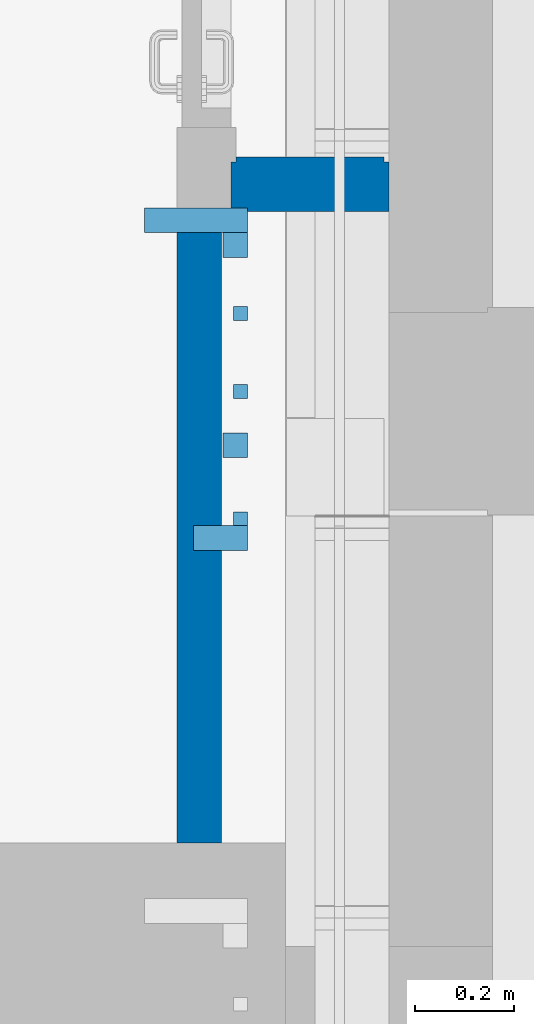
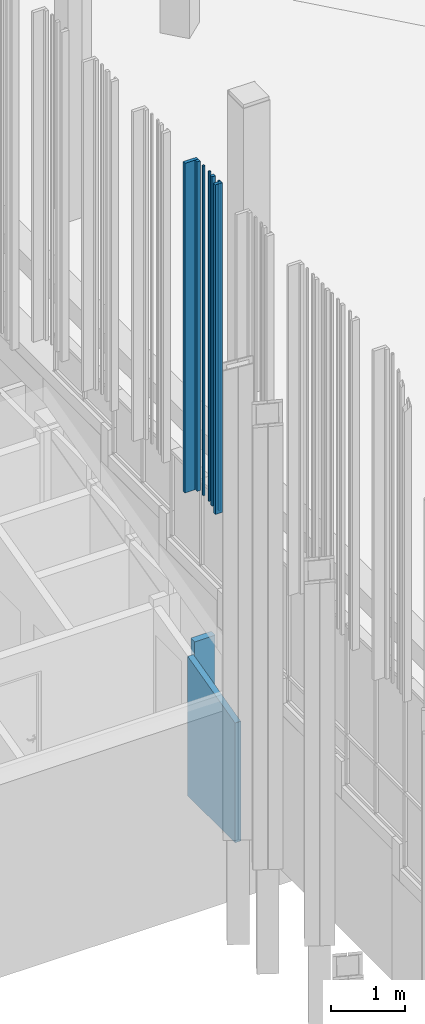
# One storey, part 118 of 390: 9 walls.
"""IFC2X3 building model written with IfcOpenShell, lengths in millimetres."""

from ifc_helpers import new_model, entity, si_unit, converted_unit, derived_unit, money_unit, direction, frame, origin_with_axes, place, context, subcontext, project, spatial, faceted_brep, material, material_list, type_object, element, save


model = new_model("IFC2X3")

# Units and contexts
model_context = context("Model", 3, precision=1e-05, world=origin_with_axes(), true_north=direction((0.0, 1.0)))
body_context = subcontext(model_context, "Body", "Model", "MODEL_VIEW")
ifc_project = project(units=[si_unit("LENGTHUNIT", "METRE", prefix="MILLI"), si_unit("AREAUNIT", "SQUARE_METRE"), si_unit("VOLUMEUNIT", "CUBIC_METRE"), converted_unit("PLANEANGLEUNIT", "DEGREE", entity("IfcPlaneAngleMeasure", 0.0174532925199), si_unit("PLANEANGLEUNIT", "RADIAN"), dimensions=[0, 0, 0, 0, 0, 0, 0]), si_unit("SOLIDANGLEUNIT", "STERADIAN"), money_unit("EUR"), converted_unit("TIMEUNIT", "Year", entity("IfcTimeMeasure", 31556926.0), si_unit("TIMEUNIT", "SECOND"), dimensions=[0, 0, 1, 0, 0, 0, 0]), si_unit("MASSUNIT", "GRAM", prefix="KILO"), si_unit("THERMODYNAMICTEMPERATUREUNIT", "DEGREE_CELSIUS"), si_unit("LUMINOUSINTENSITYUNIT", "LUMEN"), si_unit("ENERGYUNIT", "JOULE", prefix="MEGA"), derived_unit("THERMALCONDUCTANCEUNIT", [(si_unit("POWERUNIT", "WATT"), 1), (si_unit("LENGTHUNIT", "METRE"), -1), (si_unit("THERMODYNAMICTEMPERATUREUNIT", "KELVIN"), -1)]), derived_unit("SPECIFICHEATCAPACITYUNIT", [(si_unit("ENERGYUNIT", "JOULE"), 1), (si_unit("MASSUNIT", "GRAM", prefix="KILO"), -1), (si_unit("THERMODYNAMICTEMPERATUREUNIT", "KELVIN"), -1)]), derived_unit("MASSDENSITYUNIT", [(si_unit("MASSUNIT", "GRAM", prefix="KILO"), 1), (si_unit("VOLUMEUNIT", "CUBIC_METRE"), -1)])], contexts=[model_context])

# Site, building, storey
site_placement = place(None, origin_with_axes())
site = spatial("IfcSite", under=ifc_project, at=site_placement, Name="Site", CompositionType="ELEMENT")
building_placement = place(site_placement, origin_with_axes())
building = spatial("IfcBuilding", under=site, at=building_placement, Name="Building", CompositionType="ELEMENT")
storey_placement = place(building_placement, origin_with_axes())
storey = spatial("IfcBuildingStorey", under=building, at=storey_placement, Name="1 korrus", CompositionType="ELEMENT", Elevation=0.0)

# Walls
ifc_material_1 = material(Name="Site specified")
wall_type_1 = type_object("IfcWallType", Name="Puitfassaadi ribistik", PredefinedType="NOTDEFINED")
wall_1_placement = place(storey_placement, frame((122308.499996, 60061.9999924, 4424.99966101), z_axis=(0.0, 0.0, 1.0), x_axis=(0.0, 1.0, 0.0)))
element("IfcWall", 1, at=wall_1_placement, inside=storey, type_object=wall_type_1, material=ifc_material_1, Name="Site specified", context=body_context, shape_type="Brep", body=[
    faceted_brep([(25.0, 104.5, 5440.00033899), (25.0, 104.5, 0.0), (-25.0, 104.5, 0.0), (-25.0, 104.5, 5440.00033899), (25.0, -104.5, 5440.00033899), (25.0, -104.5, 0.0), (-25.0, -104.5, 0.0), (-25.0, -104.5, 5440.00033899)], [[[0, 1, 2, 3]], [[4, 5, 1, 0]], [[2, 1, 5, 6]], [[3, 2, 6, 7]], [[4, 0, 3, 7]], [[7, 6, 5, 4]]]),
])
wall_2_placement = place(storey_placement, frame((122358.499996, 59417.9999924, 4424.99966101), z_axis=(0.0, 0.0, 1.0), x_axis=(0.0, 1.0, 0.0)))
element("IfcWall", 2, at=wall_2_placement, inside=storey, type_object=wall_type_1, material=ifc_material_1, Name="Site specified", context=body_context, shape_type="Brep", body=[
    faceted_brep([(25.0, 54.5, 5440.00033899), (25.0, 54.5, 0.0), (-25.0, 54.5, 0.0), (-25.0, 54.5, 5440.00033899), (25.0, -54.5, 5440.00033899), (25.0, -54.5, 0.0), (-25.0, -54.5, 0.0), (-25.0, -54.5, 5440.00033899)], [[[0, 1, 2, 3]], [[4, 5, 1, 0]], [[2, 1, 5, 6]], [[3, 2, 6, 7]], [[4, 0, 3, 7]], [[7, 6, 5, 4]]]),
])
for number, where, z_axis, x_axis, name in (
    (3, (122398.999996, 59456.9999924, 4424.99966101), (0.0, 0.0, 1.0), (0.0, 1.0, 0.0), "Site specified"),
    (4, (122398.999996, 59714.9999924, 4424.99966101), (0.0, 0.0, 1.0), (0.0, 1.0, 0.0), "Site specified"),
):
    element("IfcWall", number, at=place(storey_placement, frame(where, z_axis=z_axis, x_axis=x_axis)), inside=storey, type_object=wall_type_1, material=ifc_material_1, Name=name, context=body_context, shape_type="Brep", body=[
        faceted_brep([(14.0, 14.0, 5440.00033899), (14.0, 14.0, 0.0), (-14.0, 14.0, 0.0), (-14.0, 14.0, 5440.00033899), (14.0, -14.0, 5440.00033899), (14.0, -14.0, 0.0), (-14.0, -14.0, 0.0), (-14.0, -14.0, 5440.00033899)], [[[0, 1, 2, 3]], [[4, 5, 1, 0]], [[2, 1, 5, 6]], [[3, 2, 6, 7]], [[4, 0, 3, 7]], [[7, 6, 5, 4]]]),
    ])
for number, where, z_axis, x_axis, name in (
    (5, (122387.999996, 60011.9999924, 4424.99966101), (0.0, 0.0, 1.0), (0.0, 1.0, 0.0), "Site specified"),
    (6, (122387.999996, 59605.9999924, 4424.99966101), (0.0, 0.0, 1.0), (0.0, 1.0, 0.0), "Site specified"),
):
    element("IfcWall", number, at=place(storey_placement, frame(where, z_axis=z_axis, x_axis=x_axis)), inside=storey, type_object=wall_type_1, material=ifc_material_1, Name=name, context=body_context, shape_type="Brep", body=[
        faceted_brep([(25.0, 25.0, 5440.00033899), (25.0, 25.0, 0.0), (-25.0, 25.0, 0.0), (-25.0, 25.0, 5440.00033899), (25.0, -25.0, 5440.00033899), (25.0, -25.0, 0.0), (-25.0, -25.0, 0.0), (-25.0, -25.0, 5440.00033899)], [[[0, 1, 2, 3]], [[4, 5, 1, 0]], [[2, 1, 5, 6]], [[3, 2, 6, 7]], [[4, 0, 3, 7]], [[7, 6, 5, 4]]]),
    ])
wall_3_placement = place(storey_placement, frame((122398.999996, 59872.9999924, 4424.99966101), z_axis=(0.0, 0.0, 1.0), x_axis=(0.0, 1.0, 0.0)))
element("IfcWall", 7, at=wall_3_placement, inside=storey, type_object=wall_type_1, material=ifc_material_1, Name="Site specified", context=body_context, shape_type="Brep", body=[
    faceted_brep([(14.0, 14.0, 5440.00033899), (14.0, 14.0, 0.0), (-14.0, 14.0, 0.0), (-14.0, 14.0, 5440.00033899), (14.0, -14.0, 5440.00033899), (14.0, -14.0, 0.0), (-14.0, -14.0, 0.0), (-14.0, -14.0, 5440.00033899)], [[[0, 1, 2, 3]], [[4, 5, 1, 0]], [[2, 1, 5, 6]], [[3, 2, 6, 7]], [[4, 0, 3, 7]], [[7, 6, 5, 4]]]),
])
ifc_material_2 = material(Name="Krohv - Lubjakivi")
ifc_material_3 = material(Name="Müüriplokk - Konstuktsioon")
ifc_material_list_1 = material_list([ifc_material_2, ifc_material_3])
wall_type_2 = type_object("IfcWallType", Name="SS-08", PredefinedType="NOTDEFINED")
wall_4_placement = place(storey_placement, frame((122389.999996, 60080.0000102, -620.0), z_axis=(0.0, 0.0, 1.0), x_axis=(1.0, 0.0, 0.0)))
element("IfcWall", 8, at=wall_4_placement, inside=storey, type_object=wall_type_2, material=ifc_material_list_1, Name="SS-08", context=body_context, shape_type="Brep", body=[
    faceted_brep([(299.999999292, 100.000000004, 0.0), (0.0, 100.0, 0.0), (0.0, 110.0, 0.0), (299.999999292, 110.000000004, 0.0), (299.999999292, 100.000000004, 2500.0), (0.0, 100.0, 2500.0), (0.0, 110.0, 2500.0), (299.999999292, 110.000000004, 2500.0)], [[[0, 1, 2, 3]], [[4, 5, 1, 0]], [[2, 1, 5, 6]], [[3, 2, 6, 7]], [[3, 7, 4, 0]], [[7, 6, 5, 4]]]),
    faceted_brep([(309.999999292, 4.1566750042e-09, 0.0), (-10.0, -1.27897692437e-10, 0.0), (-10.0, 99.9999999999, 0.0), (309.999999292, 100.000000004, 0.0), (309.999999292, 4.1566750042e-09, 2500.0), (-10.0, -1.27897692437e-10, 2500.0), (-10.0, 99.9999999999, 2500.0), (309.999999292, 100.000000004, 2500.0)], [[[0, 1, 2, 3]], [[4, 5, 1, 0]], [[2, 1, 5, 6]], [[3, 2, 6, 7]], [[3, 7, 4, 0]], [[7, 6, 5, 4]]]),
])
ifc_material_4 = material(Name="Teras")
ifc_material_5 = material(Name="Kipsplaat - Veekindel")
ifc_material_list_2 = material_list([ifc_material_4, ifc_material_5, ifc_material_5])
wall_type_3 = type_object("IfcWallType", Name="SS-14", PredefinedType="NOTDEFINED")
wall_5_placement = place(storey_placement, frame((122269.999996, 60080.0000102, -620.0), z_axis=(0.0, 0.0, 1.0), x_axis=(0.0, -1.0, 0.0)))
element("IfcWall", 9, at=wall_5_placement, inside=storey, type_object=wall_type_3, material=ifc_material_list_2, Name="SS-14", context=body_context, shape_type="Brep", body=[
    faceted_brep([(-3.19744231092e-10, 24.0, 2301.25376323), (-1.20081722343e-09, 90.0, 2301.25376323), (-1.20081722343e-09, 90.0, 0.0), (-3.19744231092e-10, 24.0, 0.0), (1280.00000325, 90.0000000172, 1976.17517491), (1280.00000325, 24.0000000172, 1976.17517491), (1280.00000325, 90.0000000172, 0.0), (1280.00000325, 24.0000000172, 0.0)], [[[0, 1, 2, 3]], [[4, 1, 0, 5]], [[1, 4, 6, 2]], [[2, 6, 7, 3]], [[5, 0, 3, 7]], [[4, 5, 7, 6]]]),
    faceted_brep([(-1.56319401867e-10, 12.0, 2301.25376323), (-3.19744231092e-10, 24.0, 2301.25376323), (-3.19744231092e-10, 24.0, 0.0), (-1.56319401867e-10, 12.0, 0.0), (1280.00000325, 24.0000000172, 1976.17517491), (1280.00000325, 12.0000000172, 1976.17517491), (1280.00000325, 24.0000000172, 0.0), (1280.00000325, 12.0000000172, 0.0)], [[[0, 1, 2, 3]], [[4, 1, 0, 5]], [[1, 4, 6, 2]], [[2, 6, 7, 3]], [[5, 0, 3, 7]], [[4, 5, 7, 6]]]),
    faceted_brep([(0.0, 0.0, 2301.25376323), (-1.56319401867e-10, 12.0, 2301.25376323), (-1.56319401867e-10, 12.0, 0.0), (0.0, 0.0, 0.0), (1280.00000325, 12.0000000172, 1976.17517491), (1280.00000325, 1.7166712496e-08, 1976.17517491), (1280.00000325, 12.0000000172, 0.0), (1280.00000325, 1.7166712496e-08, 0.0)], [[[0, 1, 2, 3]], [[4, 1, 0, 5]], [[1, 4, 6, 2]], [[2, 6, 7, 3]], [[5, 0, 3, 7]], [[4, 5, 7, 6]]]),
])

save(model, "model.ifc")
